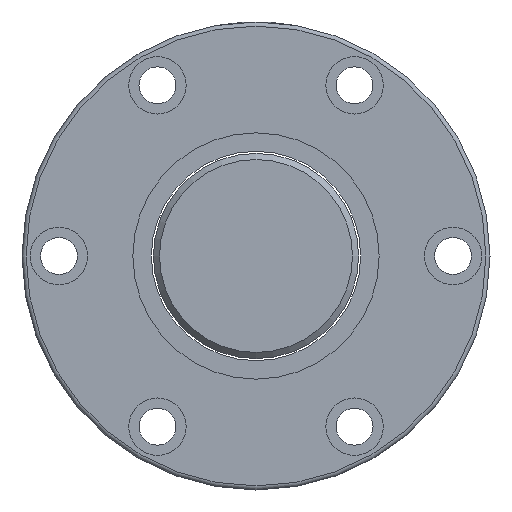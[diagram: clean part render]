
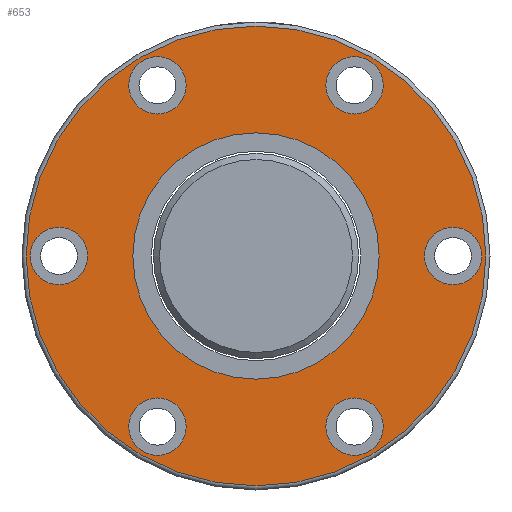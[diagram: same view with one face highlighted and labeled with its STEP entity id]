
A CAD part, left-side view. The second image highlights one B-rep face of the part: STEP entity #653.
In plain terms, the highlighted planar face has unit normal (-1, 0, 0).
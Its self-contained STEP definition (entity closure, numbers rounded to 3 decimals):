
#100=PLANE('',#769);
#176=ORIENTED_EDGE('',*,*,#246,.F.);
#177=ORIENTED_EDGE('',*,*,#275,.T.);
#178=ORIENTED_EDGE('',*,*,#268,.T.);
#179=ORIENTED_EDGE('',*,*,#264,.T.);
#180=ORIENTED_EDGE('',*,*,#260,.T.);
#181=ORIENTED_EDGE('',*,*,#256,.T.);
#182=ORIENTED_EDGE('',*,*,#252,.T.);
#183=ORIENTED_EDGE('',*,*,#248,.T.);
#246=EDGE_CURVE('',#309,#309,#363,.T.);
#248=EDGE_CURVE('',#311,#311,#365,.T.);
#252=EDGE_CURVE('',#315,#315,#369,.T.);
#256=EDGE_CURVE('',#319,#319,#373,.T.);
#260=EDGE_CURVE('',#323,#323,#377,.T.);
#264=EDGE_CURVE('',#327,#327,#381,.T.);
#268=EDGE_CURVE('',#331,#331,#385,.T.);
#275=EDGE_CURVE('',#338,#338,#392,.T.);
#309=VERTEX_POINT('',#1067);
#311=VERTEX_POINT('',#1072);
#315=VERTEX_POINT('',#1083);
#319=VERTEX_POINT('',#1094);
#323=VERTEX_POINT('',#1105);
#327=VERTEX_POINT('',#1116);
#331=VERTEX_POINT('',#1127);
#338=VERTEX_POINT('',#1147);
#363=CIRCLE('',#717,30.);
#365=CIRCLE('',#720,7.);
#369=CIRCLE('',#727,7.);
#373=CIRCLE('',#734,7.);
#377=CIRCLE('',#741,7.);
#381=CIRCLE('',#748,7.);
#385=CIRCLE('',#755,7.);
#392=CIRCLE('',#768,56.);
#471=EDGE_LOOP('',(#176));
#472=EDGE_LOOP('',(#177));
#473=EDGE_LOOP('',(#178));
#474=EDGE_LOOP('',(#179));
#475=EDGE_LOOP('',(#180));
#476=EDGE_LOOP('',(#181));
#477=EDGE_LOOP('',(#182));
#478=EDGE_LOOP('',(#183));
#578=FACE_BOUND('',#471,.T.);
#579=FACE_BOUND('',#472,.T.);
#580=FACE_BOUND('',#473,.T.);
#581=FACE_BOUND('',#474,.T.);
#582=FACE_BOUND('',#475,.T.);
#583=FACE_BOUND('',#476,.T.);
#584=FACE_BOUND('',#477,.T.);
#585=FACE_BOUND('',#478,.T.);
#653=ADVANCED_FACE('',(#578,#579,#580,#581,#582,#583,#584,#585),#100,.T.);
#717=AXIS2_PLACEMENT_3D('',#1066,#840,#841);
#720=AXIS2_PLACEMENT_3D('',#1071,#846,#847);
#727=AXIS2_PLACEMENT_3D('',#1082,#860,#861);
#734=AXIS2_PLACEMENT_3D('',#1093,#874,#875);
#741=AXIS2_PLACEMENT_3D('',#1104,#888,#889);
#748=AXIS2_PLACEMENT_3D('',#1115,#902,#903);
#755=AXIS2_PLACEMENT_3D('',#1126,#916,#917);
#768=AXIS2_PLACEMENT_3D('',#1146,#942,#943);
#769=AXIS2_PLACEMENT_3D('',#1148,#944,#945);
#840=DIRECTION('',(-1.,0.,0.));
#841=DIRECTION('',(0.,-1.,0.));
#846=DIRECTION('',(1.,0.,0.));
#847=DIRECTION('',(0.,0.5,-0.866));
#860=DIRECTION('',(1.,0.,0.));
#861=DIRECTION('',(0.,-0.5,-0.866));
#874=DIRECTION('',(1.,0.,0.));
#875=DIRECTION('',(0.,-1.,0.));
#888=DIRECTION('',(1.,0.,0.));
#889=DIRECTION('',(0.,-0.5,0.866));
#902=DIRECTION('',(1.,0.,0.));
#903=DIRECTION('',(0.,0.5,0.866));
#916=DIRECTION('',(1.,0.,0.));
#917=DIRECTION('',(0.,1.,0.));
#942=DIRECTION('',(-1.,0.,0.));
#943=DIRECTION('',(0.,-1.,0.));
#944=DIRECTION('',(-1.,0.,0.));
#945=DIRECTION('',(0.,-1.,0.));
#1066=CARTESIAN_POINT('',(-115.,0.,0.));
#1067=CARTESIAN_POINT('',(-115.,-30.,0.));
#1071=CARTESIAN_POINT('',(-115.,-24.001,-41.57));
#1072=CARTESIAN_POINT('',(-115.,-20.501,-47.632));
#1082=CARTESIAN_POINT('',(-115.,-48.001,0.));
#1083=CARTESIAN_POINT('',(-115.,-51.501,-6.062));
#1093=CARTESIAN_POINT('',(-115.,-24.,41.57));
#1094=CARTESIAN_POINT('',(-115.,-31.,41.57));
#1104=CARTESIAN_POINT('',(-115.,24.001,41.57));
#1105=CARTESIAN_POINT('',(-115.,20.501,47.632));
#1115=CARTESIAN_POINT('',(-115.,48.001,0.));
#1116=CARTESIAN_POINT('',(-115.,51.501,6.062));
#1126=CARTESIAN_POINT('',(-115.,24.,-41.57));
#1127=CARTESIAN_POINT('',(-115.,31.,-41.57));
#1146=CARTESIAN_POINT('',(-115.,0.,0.));
#1147=CARTESIAN_POINT('',(-115.,-56.,0.));
#1148=CARTESIAN_POINT('',(-115.,30.,0.));
